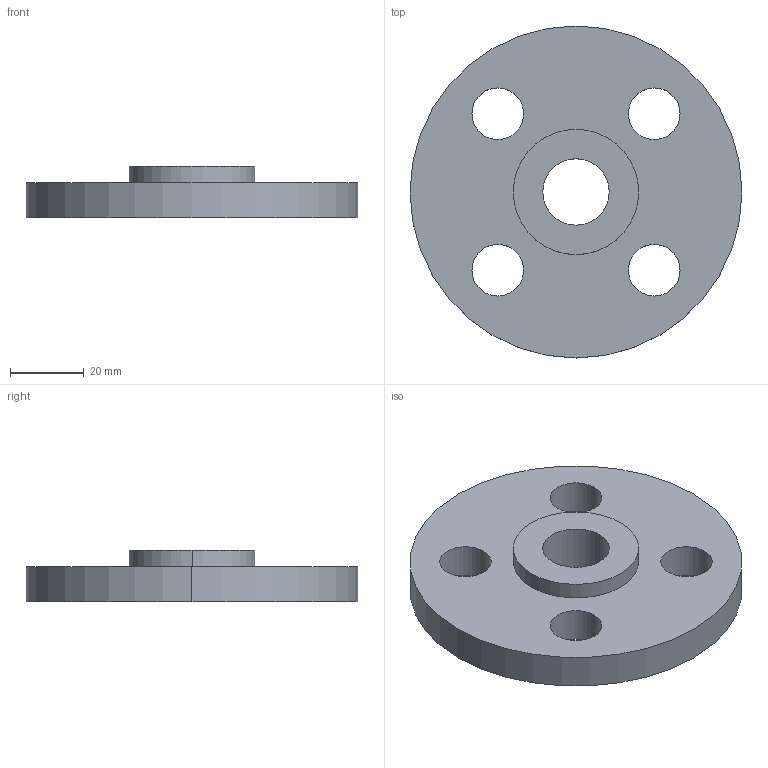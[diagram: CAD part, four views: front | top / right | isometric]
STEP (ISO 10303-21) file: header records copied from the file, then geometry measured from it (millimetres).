
FILE_DESCRIPTION (( 'STEP AP214' ), '1' );
FILE_NAME ('PN40 DN10 Type 01 - Type E Face.STEP', '2018-12-29T05:26:26', ( '' ), ( '' ), 'SwSTEP 2.0', 'SolidWorks 2019', '' );
FILE_SCHEMA (( 'AUTOMOTIVE_DESIGN' ));
Length unit declared in the file: millimetre
Products named in the file (1): PN40 DN10 Type 01 - Type E Face
Bounding box: 90 x 90 x 14 mm (x, y, z)
Volume: 55109.8 mm3; surface area: 16612.7 mm2
Topology: 1 solids, 1 shells, 17 faces, 42 edges, 28 vertices
Faces by surface type: cylinder 14, plane 3
Entity records: 578 total; most frequent: DIRECTION 106, CARTESIAN_POINT 88, ORIENTED_EDGE 84, AXIS2_PLACEMENT_3D 46, EDGE_CURVE 42, VERTEX_POINT 28, EDGE_LOOP 28, CIRCLE 28
